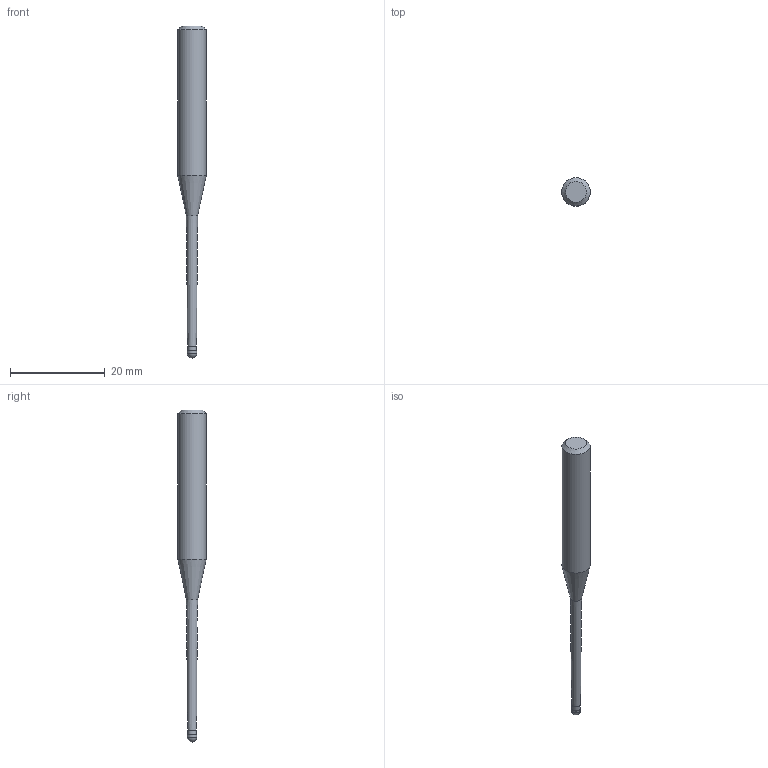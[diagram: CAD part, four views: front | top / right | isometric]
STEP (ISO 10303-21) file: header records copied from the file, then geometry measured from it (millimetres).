
FILE_DESCRIPTION((''),'2;1');
FILE_NAME('C:\Users\nsx150\AppData\Local\Temp\Mastercam 2021\E0ENTZRV18\TEMP.step','2021-09-02T09:56:44',(''),(''),'STEP Write','Mastercam 2021 ... CNC Software, Inc.','');
FILE_SCHEMA(('AUTOMOTIVE_DESIGN'));
Length unit declared in the file: millimetre
Products named in the file (1): None
Bounding box: 6 x 6 x 70 mm (x, y, z)
Volume: 1113 mm3; surface area: 931 mm2
Topology: 2 solids, 2 shells, 10 faces, 16 edges, 9 vertices
Faces by surface type: plane 3, cylinder 3, cone 3, sphere 1
Full cylindrical faces by diameter (mm): 1.875 x1, 2 x1, 6 x1
Entity records: 232 total; most frequent: DIRECTION 40, CARTESIAN_POINT 28, AXIS2_PLACEMENT_3D 20, ORIENTED_EDGE 16, EDGE_LOOP 16, STYLED_ITEM 13, ADVANCED_FACE 10, FACE_BOUND 9
